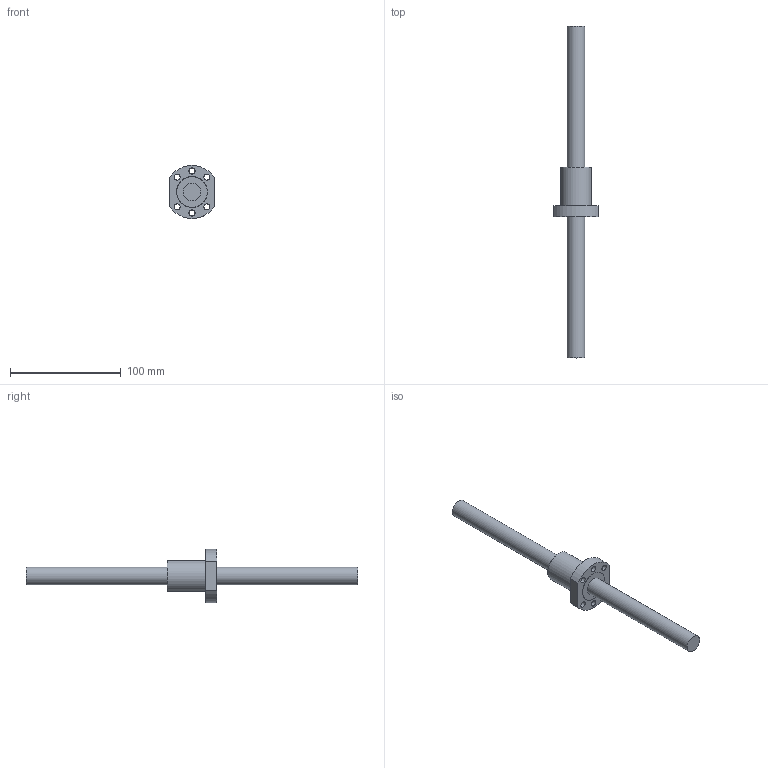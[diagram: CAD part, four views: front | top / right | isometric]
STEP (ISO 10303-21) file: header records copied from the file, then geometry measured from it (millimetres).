
FILE_DESCRIPTION(/* description */ (''),/* implementation_level */ '2;1');
FILE_NAME(/* name */ '1605.stp',/* time_stamp */ '2014-07-11T13:10:13+08:00',/* author */ (''),/* organization */ (''),/* preprocessor_version */ 'ST-DEVELOPER v11',/* originating_system */ 'SIEMENS UGS NX 6.0',/* authorisation */ '');
FILE_SCHEMA (('CONFIG_CONTROL_DESIGN'));
Length unit declared in the file: millimetre
Products named in the file (1): kcc5E5Cj7la
Bounding box: 40 x 300 x 48 mm (x, y, z)
Volume: 87748.4 mm3; surface area: 28501.9 mm2
Topology: 4 solids, 4 shells, 32 faces, 75 edges, 52 vertices
Faces by surface type: cylinder 18, plane 13, torus 1
Full cylindrical faces by diameter (mm): 5 x1, 5.5 x6, 16 x4, 23 x2, 28 x3
Entity records: 998 total; most frequent: CARTESIAN_POINT 240, DIRECTION 146, ORIENTED_EDGE 96, EDGE_LOOP 70, AXIS2_PLACEMENT_3D 68, FACE_BOUND 64, EDGE_CURVE 48, VERTEX_POINT 42
